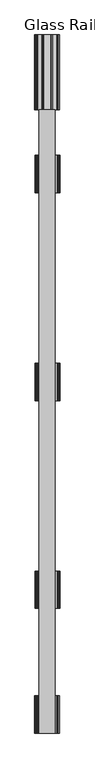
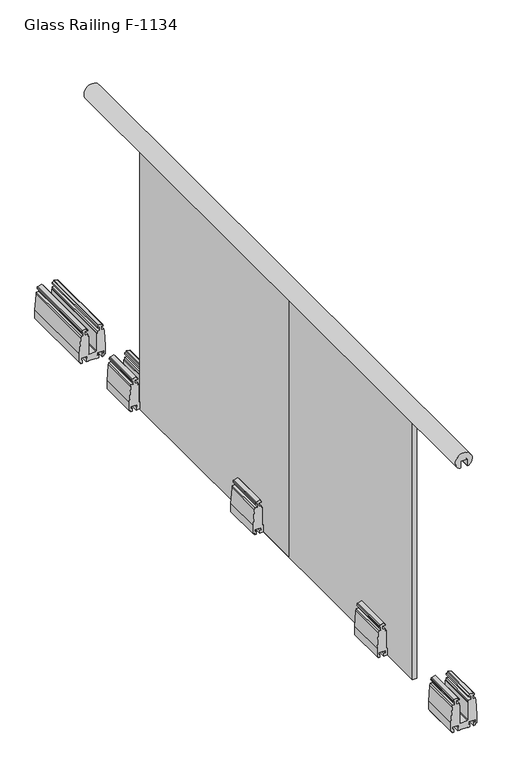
"""IFC4 building model written with IfcOpenShell, lengths in millimetres: railing geometry, Glass Railing F-1134."""

from ifc_helpers import new_model, si_unit, point, frame, frame_2d, origin, place, context, project, spatial, polyline, circle_curve, trimmed, segment, composite_curve, outline, extrude, source, transform, mapped, element, save


def glass_railing_f_1134_62b091d7(model_context):
    return source(origin(), model_context, "Body", "SweptSolid", [
        extrude(outline(composite_curve([segment(trimmed(circle_curve(frame_2d((1099.3680551, 17465.5642851)), 32.5), [point((1073.8439266, 17485.6831534))], [point((1073.8439266, 17445.4454168))], False, "CARTESIAN"), True, "CONTINUOUS"), segment(trimmed(circle_curve(frame_2d((1076.2, 17447.3025431)), 3.0), [point((1073.8439266, 17445.4454168))], [point((1073.2, 17447.3025431))], False, "CARTESIAN"), True, "CONTINUOUS"), segment(polyline([(1073.2, 17447.3025431), (1073.2, 17451.9642851)]), True, "CONTINUOUS"), segment(trimmed(circle_curve(frame_2d((1074.2, 17451.9642851)), 1.0), [point((1073.2, 17451.9642851))], [point((1074.2, 17452.9642851))], False, "CARTESIAN"), True, "CONTINUOUS"), segment(polyline([(1074.2, 17452.9642851), (1099.0, 17452.9642851)]), True, "CONTINUOUS"), segment(trimmed(circle_curve(frame_2d((1099.0, 17453.9642851)), 1.0), [point((1099.0, 17452.9642851))], [point((1100.0, 17453.9642851))], True, "CARTESIAN"), True, "CONTINUOUS"), segment(polyline([(1100.0, 17453.9642851), (1100.0, 17477.1642851)]), True, "CONTINUOUS"), segment(trimmed(circle_curve(frame_2d((1099.0, 17477.1642851)), 1.0), [point((1100.0, 17477.1642851))], [point((1099.0, 17478.1642851))], True, "CARTESIAN"), True, "CONTINUOUS"), segment(polyline([(1099.0, 17478.1642851), (1074.2, 17478.1642851)]), True, "CONTINUOUS"), segment(trimmed(circle_curve(frame_2d((1074.2, 17479.1642851)), 1.0), [point((1074.2, 17478.1642851))], [point((1073.2, 17479.1642851))], False, "CARTESIAN"), True, "CONTINUOUS"), segment(polyline([(1073.2, 17479.1642851), (1073.2, 17483.8260271)]), True, "CONTINUOUS"), segment(trimmed(circle_curve(frame_2d((1076.2, 17483.8260271)), 3.0), [point((1073.2, 17483.8260271))], [point((1073.8439266, 17485.6831534))], False, "CARTESIAN"), True, "CONTINUOUS")], self_intersect=False)), frame((0.0, -1693.0397037, 0.0), z_axis=(0.0, 1.0, 0.0), x_axis=(0.0, 0.0, 1.0)), (0.0, 0.0, 1.0), 2500.0),
        extrude(outline(composite_curve([segment(polyline([(130.3282883, 17426.6000609), (127.6639629, 17426.0319451), (124.9996375, 17425.5476142), (124.9996375, 17432.1633637), (111.4996375, 17432.1633637), (111.4996375, 17423.0935342), (102.4571485, 17421.4497571)]), True, "CONTINUOUS"), segment(trimmed(circle_curve(frame_2d((44.002634, 17815.8389652)), 398.6976018), [point((102.4571485, 17421.4497571))], [point((39.7274532, 17417.1642851))], False, "CARTESIAN"), True, "CONTINUOUS"), segment(polyline([(39.7274532, 17417.1642851), (6.7497982, 17417.1642851), (6.7497982, 17422.1643579), (0.0, 17422.1643579), (0.0, 17428.1643579), (12.7497982, 17428.1643579), (12.7497982, 17423.1638896), (21.5, 17423.1638896), (21.5, 17448.1648261), (12.7497982, 17448.1648261), (12.7497982, 17443.1643579), (0.0, 17443.1643579), (0.0, 17452.1633637), (1.5, 17452.1633637), (1.5, 17482.1633637), (0.0, 17482.1633637), (0.0, 17491.1623696), (12.7497982, 17491.1623696), (12.7497982, 17486.1619014), (21.5, 17486.1619014), (21.5, 17511.1628379), (12.7497982, 17511.1628379), (12.7497982, 17506.1623696), (0.0, 17506.1623696), (0.0, 17512.1623696), (6.7497982, 17512.1623696), (6.7497982, 17517.163351), (39.8130388, 17517.163351)]), True, "CONTINUOUS"), segment(trimmed(circle_curve(frame_2d((44.002634, 17118.4877623)), 398.6976018), [point((39.8130388, 17517.163351))], [point((102.4571485, 17512.8769704))], False, "CARTESIAN"), True, "CONTINUOUS"), segment(polyline([(102.4571485, 17512.8769704), (111.4996375, 17511.2331932), (111.4996375, 17502.1633637), (124.9996375, 17502.1633637), (124.9996375, 17508.7791133), (127.6639629, 17508.2947823), (130.3282883, 17507.7266666)]), True, "CONTINUOUS"), segment(trimmed(circle_curve(frame_2d((129.7026611, 17504.7926266)), 3.0), [point((130.3282883, 17507.7266666))], [point((132.6004386, 17505.5690837))], False, "CARTESIAN"), True, "CONTINUOUS"), segment(polyline([(132.6004386, 17505.5690837), (136.5944143, 17490.6633637), (132.1654143, 17490.6633637), (130.2761577, 17485.4726741), (124.9996375, 17485.4726741), (124.9996375, 17496.1633637), (111.4996375, 17496.1633637), (111.4996375, 17485.4726741), (103.020672, 17485.4726741), (103.020672, 17481.8633637), (32.5, 17481.8633637), (28.5, 17481.1633637), (28.5, 17453.1633637), (32.5, 17452.4633637), (103.020672, 17452.4633637), (103.020672, 17448.8540534), (111.4996375, 17448.8540534), (111.4996375, 17438.1633637), (124.9996375, 17438.1633637), (124.9996375, 17448.8540534), (130.2761577, 17448.8540534), (132.1654143, 17443.6633637), (136.5944143, 17443.6633637), (132.6004386, 17428.7576438)]), True, "CONTINUOUS"), segment(trimmed(circle_curve(frame_2d((129.7026611, 17429.5341009)), 3.0), [point((132.6004386, 17428.7576438))], [point((130.3282883, 17426.6000609))], False, "CARTESIAN"), True, "CONTINUOUS")], self_intersect=False)), frame((0.0, 473.626963, 0.0), z_axis=(0.0, 1.0, 0.0), x_axis=(0.0, 0.0, 1.0)), (0.0, 0.0, 1.0), 150.0),
        extrude(outline(polyline([(17458.0642851, -526.373037), (17458.0642851, 473.626963), (17475.5642851, 473.626963), (17475.5642851, -526.373037), (17458.0642851, -526.373037)])), frame((0.0, 0.0, -1.0), z_axis=(0.0, 0.0, 1.0), x_axis=(1.0, 0.0, 0.0)), (0.0, 0.0, 1.0), 1074.2),
        extrude(outline(composite_curve([segment(polyline([(130.3282883, 17426.6000609), (127.6639629, 17426.0319451), (124.9996375, 17425.5476142), (124.9996375, 17432.1633637), (111.4996375, 17432.1633637), (111.4996375, 17423.0935342), (102.4571485, 17421.4497571)]), True, "CONTINUOUS"), segment(trimmed(circle_curve(frame_2d((44.002634, 17815.8389652)), 398.6976018), [point((102.4571485, 17421.4497571))], [point((39.7274532, 17417.1642851))], False, "CARTESIAN"), True, "CONTINUOUS"), segment(polyline([(39.7274532, 17417.1642851), (6.7497982, 17417.1642851), (6.7497982, 17422.1643579), (0.0, 17422.1643579), (0.0, 17428.1643579), (12.7497982, 17428.1643579), (12.7497982, 17423.1638896), (21.5, 17423.1638896), (21.5, 17448.1648261), (12.7497982, 17448.1648261), (12.7497982, 17443.1643579), (0.0, 17443.1643579), (0.0, 17452.1633637), (1.5, 17452.1633637), (1.5, 17482.1633637), (0.0, 17482.1633637), (0.0, 17491.1623696), (12.7497982, 17491.1623696), (12.7497982, 17486.1619014), (21.5, 17486.1619014), (21.5, 17511.1628379), (12.7497982, 17511.1628379), (12.7497982, 17506.1623696), (0.0, 17506.1623696), (0.0, 17512.1623696), (6.7497982, 17512.1623696), (6.7497982, 17517.163351), (39.8130388, 17517.163351)]), True, "CONTINUOUS"), segment(trimmed(circle_curve(frame_2d((44.002634, 17118.4877623)), 398.6976018), [point((39.8130388, 17517.163351))], [point((102.4571485, 17512.8769704))], False, "CARTESIAN"), True, "CONTINUOUS"), segment(polyline([(102.4571485, 17512.8769704), (111.4996375, 17511.2331932), (111.4996375, 17502.1633637), (124.9996375, 17502.1633637), (124.9996375, 17508.7791133), (127.6639629, 17508.2947823), (130.3282883, 17507.7266666)]), True, "CONTINUOUS"), segment(trimmed(circle_curve(frame_2d((129.7026611, 17504.7926266)), 3.0), [point((130.3282883, 17507.7266666))], [point((132.6004386, 17505.5690837))], False, "CARTESIAN"), True, "CONTINUOUS"), segment(polyline([(132.6004386, 17505.5690837), (136.5944143, 17490.6633637), (132.1654143, 17490.6633637), (130.2761577, 17485.4726741), (124.9996375, 17485.4726741), (124.9996375, 17496.1633637), (111.4996375, 17496.1633637), (111.4996375, 17485.4726741), (103.020672, 17485.4726741), (103.020672, 17481.8633637), (32.5, 17481.8633637), (28.5, 17481.1633637), (28.5, 17453.1633637), (32.5, 17452.4633637), (103.020672, 17452.4633637), (103.020672, 17448.8540534), (111.4996375, 17448.8540534), (111.4996375, 17438.1633637), (124.9996375, 17438.1633637), (124.9996375, 17448.8540534), (130.2761577, 17448.8540534), (132.1654143, 17443.6633637), (136.5944143, 17443.6633637), (132.6004386, 17428.7576438)]), True, "CONTINUOUS"), segment(trimmed(circle_curve(frame_2d((129.7026611, 17429.5341009)), 3.0), [point((132.6004386, 17428.7576438))], [point((130.3282883, 17426.6000609))], False, "CARTESIAN"), True, "CONTINUOUS")], self_intersect=False)), frame((0.0, -359.7063704, 0.0), z_axis=(0.0, 1.0, 0.0), x_axis=(0.0, 0.0, 1.0)), (0.0, 0.0, 1.0), 150.0),
        extrude(outline(polyline([(17458.0642851, -1359.7063704), (17458.0642851, -359.7063704), (17475.5642851, -359.7063704), (17475.5642851, -1359.7063704), (17458.0642851, -1359.7063704)])), frame((0.0, 0.0, -1.0), z_axis=(0.0, 0.0, 1.0), x_axis=(1.0, 0.0, 0.0)), (0.0, 0.0, 1.0), 1074.2),
        extrude(outline(composite_curve([segment(polyline([(130.3282883, 17426.6000609), (127.6639629, 17426.0319451), (124.9996375, 17425.5476142), (124.9996375, 17432.1633637), (111.4996375, 17432.1633637), (111.4996375, 17423.0935342), (102.4571485, 17421.4497571)]), True, "CONTINUOUS"), segment(trimmed(circle_curve(frame_2d((44.002634, 17815.8389652)), 398.6976018), [point((102.4571485, 17421.4497571))], [point((39.7274532, 17417.1642851))], False, "CARTESIAN"), True, "CONTINUOUS"), segment(polyline([(39.7274532, 17417.1642851), (6.7497982, 17417.1642851), (6.7497982, 17422.1643579), (0.0, 17422.1643579), (0.0, 17428.1643579), (12.7497982, 17428.1643579), (12.7497982, 17423.1638896), (21.5, 17423.1638896), (21.5, 17448.1648261), (12.7497982, 17448.1648261), (12.7497982, 17443.1643579), (0.0, 17443.1643579), (0.0, 17452.1633637), (1.5, 17452.1633637), (1.5, 17482.1633637), (0.0, 17482.1633637), (0.0, 17491.1623696), (12.7497982, 17491.1623696), (12.7497982, 17486.1619014), (21.5, 17486.1619014), (21.5, 17511.1628379), (12.7497982, 17511.1628379), (12.7497982, 17506.1623696), (0.0, 17506.1623696), (0.0, 17512.1623696), (6.7497982, 17512.1623696), (6.7497982, 17517.163351), (39.8130388, 17517.163351)]), True, "CONTINUOUS"), segment(trimmed(circle_curve(frame_2d((44.002634, 17118.4877623)), 398.6976018), [point((39.8130388, 17517.163351))], [point((102.4571485, 17512.8769704))], False, "CARTESIAN"), True, "CONTINUOUS"), segment(polyline([(102.4571485, 17512.8769704), (111.4996375, 17511.2331932), (111.4996375, 17502.1633637), (124.9996375, 17502.1633637), (124.9996375, 17508.7791133), (127.6639629, 17508.2947823), (130.3282883, 17507.7266666)]), True, "CONTINUOUS"), segment(trimmed(circle_curve(frame_2d((129.7026611, 17504.7926266)), 3.0), [point((130.3282883, 17507.7266666))], [point((132.6004386, 17505.5690837))], False, "CARTESIAN"), True, "CONTINUOUS"), segment(polyline([(132.6004386, 17505.5690837), (136.5944143, 17490.6633637), (132.1654143, 17490.6633637), (130.2761577, 17485.4726741), (124.9996375, 17485.4726741), (124.9996375, 17496.1633637), (111.4996375, 17496.1633637), (111.4996375, 17485.4726741), (103.020672, 17485.4726741), (103.020672, 17481.8633637), (32.5, 17481.8633637), (28.5, 17481.1633637), (28.5, 17453.1633637), (32.5, 17452.4633637), (103.020672, 17452.4633637), (103.020672, 17448.8540534), (111.4996375, 17448.8540534), (111.4996375, 17438.1633637), (124.9996375, 17438.1633637), (124.9996375, 17448.8540534), (130.2761577, 17448.8540534), (132.1654143, 17443.6633637), (136.5944143, 17443.6633637), (132.6004386, 17428.7576438)]), True, "CONTINUOUS"), segment(trimmed(circle_curve(frame_2d((129.7026611, 17429.5341009)), 3.0), [point((132.6004386, 17428.7576438))], [point((130.3282883, 17426.6000609))], False, "CARTESIAN"), True, "CONTINUOUS")], self_intersect=False)), frame((0.0, -1193.0397037, 0.0), z_axis=(0.0, 1.0, 0.0), x_axis=(0.0, 0.0, 1.0)), (0.0, 0.0, 1.0), 150.0),
        extrude(outline(composite_curve([segment(polyline([(127.3282883, 17425.0000609), (124.6639629, 17424.4319451), (121.9996375, 17423.9476142), (121.9996375, 17430.5633637), (108.4996375, 17430.5633637), (108.4996375, 17421.4935342), (99.4571485, 17419.8497571)]), True, "CONTINUOUS"), segment(trimmed(circle_curve(frame_2d((41.002634, 17814.2389652)), 398.6976018), [point((99.4571485, 17419.8497571))], [point((36.7274532, 17415.5642851))], False, "CARTESIAN"), True, "CONTINUOUS"), segment(polyline([(36.7274532, 17415.5642851), (3.7497982, 17415.5642851), (3.7497982, 17420.5643579), (-3.0, 17420.5643579), (-3.0, 17426.5643579), (9.7497982, 17426.5643579), (9.7497982, 17421.5638896), (18.5, 17421.5638896), (18.5, 17446.5648261), (9.7497982, 17446.5648261), (9.7497982, 17441.5643579), (-3.0, 17441.5643579), (-3.0, 17450.5633637), (-1.5, 17450.5633637), (-1.5, 17480.5633637), (-3.0, 17480.5633637), (-3.0, 17489.5623696), (9.7497982, 17489.5623696), (9.7497982, 17484.5619014), (18.5, 17484.5619014), (18.5, 17509.5628379), (9.7497982, 17509.5628379), (9.7497982, 17504.5623696), (-3.0, 17504.5623696), (-3.0, 17510.5623696), (3.7497982, 17510.5623696), (3.7497982, 17515.563351), (36.8130388, 17515.563351)]), True, "CONTINUOUS"), segment(trimmed(circle_curve(frame_2d((41.002634, 17116.8877623)), 398.6976018), [point((36.8130388, 17515.563351))], [point((99.4571485, 17511.2769704))], False, "CARTESIAN"), True, "CONTINUOUS"), segment(polyline([(99.4571485, 17511.2769704), (108.4996375, 17509.6331932), (108.4996375, 17500.5633637), (121.9996375, 17500.5633637), (121.9996375, 17507.1791133), (124.6639629, 17506.6947823), (127.3282883, 17506.1266666)]), True, "CONTINUOUS"), segment(trimmed(circle_curve(frame_2d((126.7026611, 17503.1926266)), 3.0), [point((127.3282883, 17506.1266666))], [point((129.6004386, 17503.9690837))], False, "CARTESIAN"), True, "CONTINUOUS"), segment(polyline([(129.6004386, 17503.9690837), (133.5944143, 17489.0633637), (129.1654143, 17489.0633637), (127.2761577, 17483.8726741), (121.9996375, 17483.8726741), (121.9996375, 17494.5633637), (108.4996375, 17494.5633637), (108.4996375, 17483.8726741), (100.020672, 17483.8726741), (100.020672, 17480.2633637), (29.5, 17480.2633637), (25.5, 17479.5633637), (25.5, 17451.5633637), (29.5, 17450.8633637), (100.020672, 17450.8633637), (100.020672, 17447.2540534), (108.4996375, 17447.2540534), (108.4996375, 17436.5633637), (121.9996375, 17436.5633637), (121.9996375, 17447.2540534), (127.2761577, 17447.2540534), (129.1654143, 17442.0633637), (133.5944143, 17442.0633637), (129.6004386, 17427.1576438)]), True, "CONTINUOUS"), segment(trimmed(circle_curve(frame_2d((126.7026611, 17427.9341009)), 3.0), [point((129.6004386, 17427.1576438))], [point((127.3282883, 17425.0000609))], False, "CARTESIAN"), True, "CONTINUOUS")], self_intersect=False)), frame((0.0, 806.9602963, 0.0), z_axis=(0.0, 1.0, 0.0), x_axis=(0.0, 0.0, 1.0)), (0.0, 0.0, 1.0), 300.0),
        extrude(outline(composite_curve([segment(polyline([(127.3282883, 17425.0000609), (124.6639629, 17424.4319451), (121.9996375, 17423.9476142), (121.9996375, 17430.5633637), (108.4996375, 17430.5633637), (108.4996375, 17421.4935342), (99.4571485, 17419.8497571)]), True, "CONTINUOUS"), segment(trimmed(circle_curve(frame_2d((41.002634, 17814.2389652)), 398.6976018), [point((99.4571485, 17419.8497571))], [point((36.7274532, 17415.5642851))], False, "CARTESIAN"), True, "CONTINUOUS"), segment(polyline([(36.7274532, 17415.5642851), (3.7497982, 17415.5642851), (3.7497982, 17420.5643579), (-3.0, 17420.5643579), (-3.0, 17426.5643579), (9.7497982, 17426.5643579), (9.7497982, 17421.5638896), (18.5, 17421.5638896), (18.5, 17446.5648261), (9.7497982, 17446.5648261), (9.7497982, 17441.5643579), (-3.0, 17441.5643579), (-3.0, 17450.5633637), (-1.5, 17450.5633637), (-1.5, 17480.5633637), (-3.0, 17480.5633637), (-3.0, 17489.5623696), (9.7497982, 17489.5623696), (9.7497982, 17484.5619014), (18.5, 17484.5619014), (18.5, 17509.5628379), (9.7497982, 17509.5628379), (9.7497982, 17504.5623696), (-3.0, 17504.5623696), (-3.0, 17510.5623696), (3.7497982, 17510.5623696), (3.7497982, 17515.563351), (36.8130388, 17515.563351)]), True, "CONTINUOUS"), segment(trimmed(circle_curve(frame_2d((41.002634, 17116.8877623)), 398.6976018), [point((36.8130388, 17515.563351))], [point((99.4571485, 17511.2769704))], False, "CARTESIAN"), True, "CONTINUOUS"), segment(polyline([(99.4571485, 17511.2769704), (108.4996375, 17509.6331932), (108.4996375, 17500.5633637), (121.9996375, 17500.5633637), (121.9996375, 17507.1791133), (124.6639629, 17506.6947823), (127.3282883, 17506.1266666)]), True, "CONTINUOUS"), segment(trimmed(circle_curve(frame_2d((126.7026611, 17503.1926266)), 3.0), [point((127.3282883, 17506.1266666))], [point((129.6004386, 17503.9690837))], False, "CARTESIAN"), True, "CONTINUOUS"), segment(polyline([(129.6004386, 17503.9690837), (133.5944143, 17489.0633637), (129.1654143, 17489.0633637), (127.2761577, 17483.8726741), (121.9996375, 17483.8726741), (121.9996375, 17494.5633637), (108.4996375, 17494.5633637), (108.4996375, 17483.8726741), (100.020672, 17483.8726741), (100.020672, 17480.2633637), (29.5, 17480.2633637), (25.5, 17479.5633637), (25.5, 17451.5633637), (29.5, 17450.8633637), (100.020672, 17450.8633637), (100.020672, 17447.2540534), (108.4996375, 17447.2540534), (108.4996375, 17436.5633637), (121.9996375, 17436.5633637), (121.9996375, 17447.2540534), (127.2761577, 17447.2540534), (129.1654143, 17442.0633637), (133.5944143, 17442.0633637), (129.6004386, 17427.1576438)]), True, "CONTINUOUS"), segment(trimmed(circle_curve(frame_2d((126.7026611, 17427.9341009)), 3.0), [point((129.6004386, 17427.1576438))], [point((127.3282883, 17425.0000609))], False, "CARTESIAN"), True, "CONTINUOUS")], self_intersect=False)), frame((0.0, -1693.0397037, 0.0), z_axis=(0.0, 1.0, 0.0), x_axis=(0.0, 0.0, 1.0)), (0.0, 0.0, 1.0), 150.0),
    ])


if __name__ == "__main__":
    model = new_model("IFC4")
    model_context = context("Model", 3, world=origin())
    ifc_project = project(units=[si_unit("LENGTHUNIT", "METRE", prefix="MILLI")], contexts=[model_context])
    site = spatial("IfcSite", under=ifc_project)
    building = spatial("IfcBuilding", under=site)
    placement = place(None, origin())
    glass_railing_f_1134_shape = glass_railing_f_1134_62b091d7(model_context)
    element("IfcRailing", 1, ObjectType="Glass Railing F-1134", at=placement, inside=building, context=model_context, shape_type="MappedRepresentation", body=[
        mapped(glass_railing_f_1134_shape, transform((0.0, 0.0, 0.0), x_axis=(1.0, 0.0, 0.0), y_axis=(0.0, 1.0, 0.0), z_axis=(0.0, 0.0, 1.0))),
    ])
    save(model, "model.ifc")
